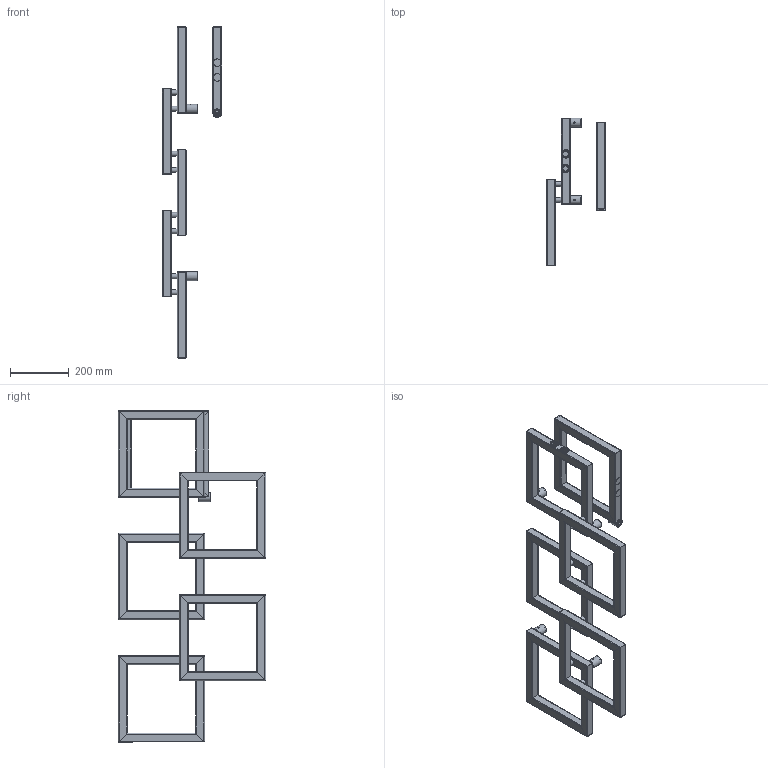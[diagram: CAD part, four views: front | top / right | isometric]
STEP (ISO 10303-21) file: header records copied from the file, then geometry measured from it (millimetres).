
FILE_DESCRIPTION( ( 'Unknown' ), '1' );
FILE_NAME( 'V:/DESIGN PROGRAM/LOCO mini/STP/LOCO 5 mini LEWY.stp', 'Unknown', ( 'Unknown' ), ( 'Unknown' ), 'PSStep 10.1', 'Unknown', ' ' );
FILE_SCHEMA( ( 'AUTOMOTIVE_DESIGN { 1 0 10303 214 1 1 1 1 }' ) );
Length unit declared in the file: millimetre
Products named in the file (30): Ramka 2; Mocowanie L40; Assem1; Ramka 3; Ramka 1 LEWY; czêœæ 3-oa11; czêœæ 1-oa12; czêœæ 2-oa13; czêœæ 4; czêœæ 3; czêœæ 1; czêœæ 5; czêœæ 6; MOCOWANIE L40-01; MOCOWANIE FASOLKA; MOCOWANIE L40-03; czêœæ 3-oa0; czêœæ 3-oa1; czêœæ 1-oa2; czêœæ 2; ｳｹcznik ; ｳｹcznik -oa3; ｳｹcznik -oa4; ｳｹcznik -oa5; ｳｹcznik -oa6; ｳｹcznik -oa7; ｳｹcznik -oa8; ｳｹcznik -oa9; Zaslepka fi 30 z gwintem ; Zaslepka fi 30 z gwintem -oa10
Bounding box: 200.65 x 500 x 1125.5 mm (x, y, z)
Volume: 2041142.8 mm3; surface area: 2666927.6 mm2
Topology: 82 solids, 82 shells, 1140 faces, 2898 edges, 1940 vertices
Faces by surface type: plane 582, cylinder 520, cone 30, torus 8
Full cylindrical faces by diameter (mm): 4.917 x6, 12.5 x16, 15.5 x16, 16.3 x16, 16.5 x32, 17 x6, 17.2 x16, 18.631 x4, 20 x6, 22 x6, 22.7 x6, 23 x6, 25 x4, 25.25 x6, 29 x4, 30 x6
Entity records: 12909 total; most frequent: CARTESIAN_POINT 1812, DIRECTION 1770, ORIENTED_EDGE 1454, EDGE_CURVE 727, AXIS2_PLACEMENT_3D 685, VERTEX_POINT 523, EDGE_LOOP 484, LINE 400
